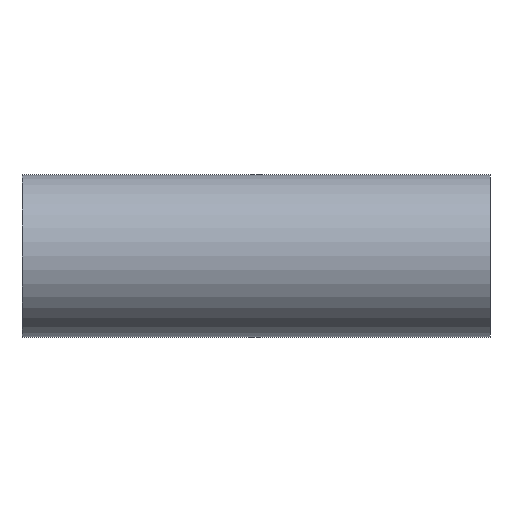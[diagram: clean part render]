
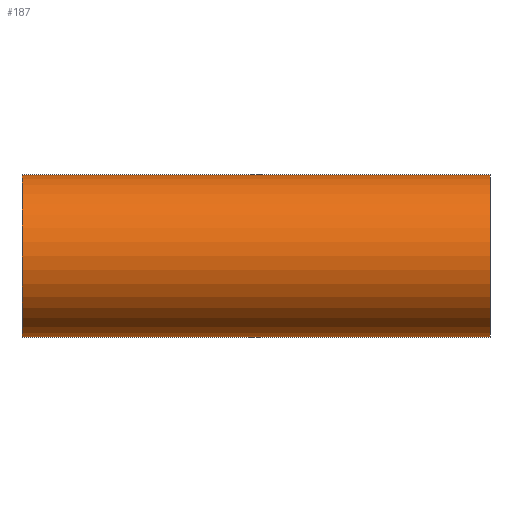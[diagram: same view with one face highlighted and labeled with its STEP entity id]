
A CAD part, front view. The second image highlights one B-rep face of the part: STEP entity #187.
In plain terms, the highlighted cylindrical face has radius 25.4 mm (diameter 50.8 mm), a partial arc.
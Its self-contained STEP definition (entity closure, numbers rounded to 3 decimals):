
#8 = DIRECTION ( 'NONE',  ( -1., 0., 0. ) ) ;
#9 = DIRECTION ( 'NONE',  ( 1., 0., 0. ) ) ;
#24 = EDGE_CURVE ( 'NONE', #342, #145, #363, .T. ) ;
#26 = AXIS2_PLACEMENT_3D ( 'NONE', #397, #180, #368 ) ;
#35 = EDGE_CURVE ( 'NONE', #84, #101, #65, .T. ) ;
#42 = CARTESIAN_POINT ( 'NONE',  ( -73., 0., -25.4 ) ) ;
#43 = CARTESIAN_POINT ( 'NONE',  ( -73., 0., 25.4 ) ) ;
#65 = CIRCLE ( 'NONE', #26, 25.4 ) ;
#69 = EDGE_CURVE ( 'NONE', #266, #145, #313, .T. ) ;
#71 = AXIS2_PLACEMENT_3D ( 'NONE', #357, #8, #140 ) ;
#75 = VECTOR ( 'NONE', #206, 1000. ) ;
#77 = CARTESIAN_POINT ( 'NONE',  ( 73., 0., 25.4 ) ) ;
#79 = ORIENTED_EDGE ( 'NONE', *, *, #147, .T. ) ;
#82 = ORIENTED_EDGE ( 'NONE', *, *, #298, .T. ) ;
#84 = VERTEX_POINT ( 'NONE', #360 ) ;
#93 = ORIENTED_EDGE ( 'NONE', *, *, #110, .F. ) ;
#98 = ORIENTED_EDGE ( 'NONE', *, *, #69, .F. ) ;
#101 = VERTEX_POINT ( 'NONE', #42 ) ;
#110 = EDGE_CURVE ( 'NONE', #84, #266, #295, .T. ) ;
#129 = VECTOR ( 'NONE', #160, 1000. ) ;
#133 = VECTOR ( 'NONE', #9, 1000. ) ;
#140 = DIRECTION ( 'NONE',  ( 0., 0., -1. ) ) ;
#141 = LINE ( 'NONE', #233, #129 ) ;
#145 = VERTEX_POINT ( 'NONE', #77 ) ;
#147 = EDGE_CURVE ( 'NONE', #188, #342, #141, .T. ) ;
#154 = CARTESIAN_POINT ( 'NONE',  ( -73., 0., -25.4 ) ) ;
#157 = CARTESIAN_POINT ( 'NONE',  ( 73., 0., -25.4 ) ) ;
#160 = DIRECTION ( 'NONE',  ( 1., 0., 0. ) ) ;
#180 = DIRECTION ( 'NONE',  ( 1., 0., 0. ) ) ;
#187 = ADVANCED_FACE ( 'NONE', ( #331 ), #408, .T. ) ;
#188 = VERTEX_POINT ( 'NONE', #365 ) ;
#206 = DIRECTION ( 'NONE',  ( 1., 0., 0. ) ) ;
#209 = LINE ( 'NONE', #154, #133 ) ;
#214 = AXIS2_PLACEMENT_3D ( 'NONE', #401, #315, #385 ) ;
#216 = VECTOR ( 'NONE', #226, 1000. ) ;
#226 = DIRECTION ( 'NONE',  ( 1., 0., 0. ) ) ;
#233 = CARTESIAN_POINT ( 'NONE',  ( -73., 0., -25.4 ) ) ;
#240 = EDGE_LOOP ( 'NONE', ( #93, #265, #82, #79, #379, #98 ) ) ;
#265 = ORIENTED_EDGE ( 'NONE', *, *, #35, .T. ) ;
#266 = VERTEX_POINT ( 'NONE', #377 ) ;
#271 = CARTESIAN_POINT ( 'NONE',  ( -73., 0., 25.4 ) ) ;
#295 = LINE ( 'NONE', #43, #216 ) ;
#298 = EDGE_CURVE ( 'NONE', #101, #188, #209, .T. ) ;
#313 = LINE ( 'NONE', #271, #75 ) ;
#315 = DIRECTION ( 'NONE',  ( 1., 0., 0. ) ) ;
#331 = FACE_OUTER_BOUND ( 'NONE', #240, .T. ) ;
#342 = VERTEX_POINT ( 'NONE', #157 ) ;
#357 = CARTESIAN_POINT ( 'NONE',  ( 73., 0., 0. ) ) ;
#360 = CARTESIAN_POINT ( 'NONE',  ( -73., 0., 25.4 ) ) ;
#363 = CIRCLE ( 'NONE', #71, 25.4 ) ;
#365 = CARTESIAN_POINT ( 'NONE',  ( 0., 0., -25.4 ) ) ;
#368 = DIRECTION ( 'NONE',  ( 0., 0., -1. ) ) ;
#377 = CARTESIAN_POINT ( 'NONE',  ( 0., 0., 25.4 ) ) ;
#379 = ORIENTED_EDGE ( 'NONE', *, *, #24, .T. ) ;
#385 = DIRECTION ( 'NONE',  ( 0., 0., -1. ) ) ;
#397 = CARTESIAN_POINT ( 'NONE',  ( -73., 0., 0. ) ) ;
#401 = CARTESIAN_POINT ( 'NONE',  ( -73., 0., 0. ) ) ;
#408 = CYLINDRICAL_SURFACE ( 'NONE', #214, 25.4 ) ;
